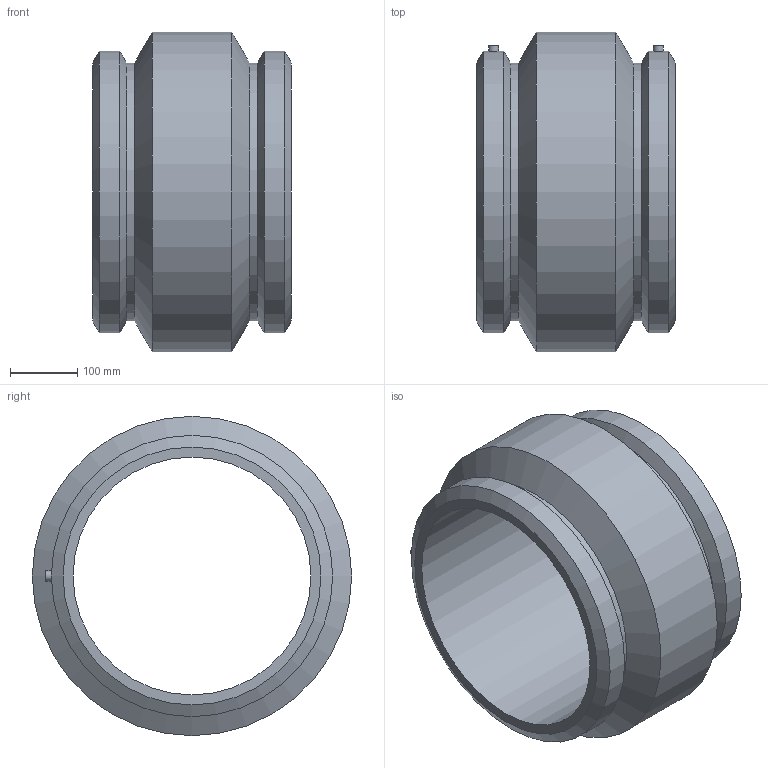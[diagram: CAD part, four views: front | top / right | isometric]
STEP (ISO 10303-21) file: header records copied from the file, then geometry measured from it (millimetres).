
FILE_DESCRIPTION(/* description */ ('PLASSON COUPLER 14''''DIPS'),/* implementation_level */ '2;1');
FILE_NAME(/* name */ 'C:\Dropbox\KIMPROJECTS-Inventor 2019\99-16-3568-Processing Inch\ASTM ElectroFusion 2021\5901D\5901D003140.ipt.stp',/* time_stamp */ '2021-08-30T09:48:57+03:00',/* author */ ('KIM'),/* organization */ (''),/* preprocessor_version */ 'ST-DEVELOPER v17.2',/* originating_system */ 'Autodesk Inventor 2019',/* authorisation */ '');
FILE_SCHEMA (('AUTOMOTIVE_DESIGN { 1 0 10303 214 3 1 1 }'));
Length unit declared in the file: inch
Products named in the file (1): 5901D003140
Bounding box: 295.91 x 474.98 x 474.98 mm (x, y, z)
Volume: 15711145 mm3; surface area: 894337.1 mm2
Topology: 1 solids, 1 shells, 28 faces, 66 edges, 46 vertices
Faces by surface type: cylinder 12, plane 8, cone 6, bspline 2
Full cylindrical faces by diameter (mm): 4 x2, 10 x2, 15 x2, 354 x1, 383.56 x2, 418.429 x2, 474.98 x1
Entity records: 1250 total; most frequent: CARTESIAN_POINT 536, DIRECTION 146, ORIENTED_EDGE 132, EDGE_CURVE 66, AXIS2_PLACEMENT_3D 63, VERTEX_POINT 46, CIRCLE 36, EDGE_LOOP 36
